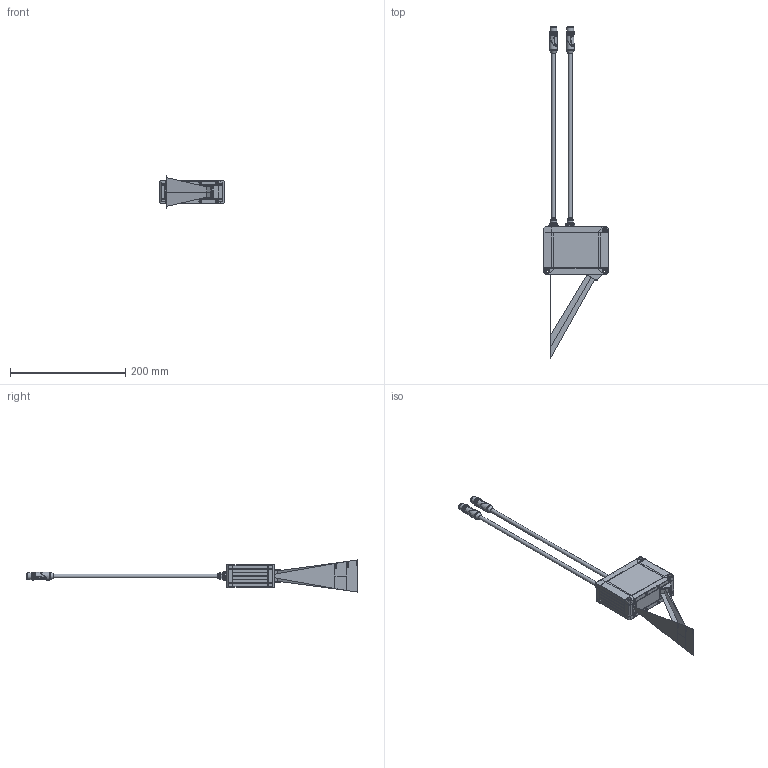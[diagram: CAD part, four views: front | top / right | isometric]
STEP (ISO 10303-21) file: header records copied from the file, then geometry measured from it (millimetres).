
FILE_DESCRIPTION (( 'STEP AP214' ), '1' );
FILE_NAME ('LLT30xx-50-PT.STEP', '2026-07-22T08:18:30', ( '' ), ( '' ), 'SwSTEP 2.0', 'SolidWorks 2024', '' );
FILE_SCHEMA (( 'AUTOMOTIVE_DESIGN' ));
Length unit declared in the file: millimetre
Products named in the file (1): LLT30xx-50-PT
Bounding box: 112 x 575.5 x 55.9 mm (x, y, z)
Volume: 394611.3 mm3; surface area: 83768.6 mm2
Topology: 3 solids, 10 shells, 3865 faces, 8678 edges, 4932 vertices
Faces by surface type: plane 2121, cone 944, cylinder 488, bspline 284, torus 28
Full cylindrical faces by diameter (mm): 0.6 x8, 0.7 x12, 2.4 x3, 3.8 x16, 4.2 x3, 4.4 x16, 6.8 x4, 8 x4, 8.35 x2, 8.4 x4, 9.2 x2, 9.4 x2, 9.5 x2, 10.5 x2, 10.7 x2, 11.2 x2, 12 x2, 13 x2, 13.5 x2, 15 x2
Entity records: 160013 total; most frequent: CARTESIAN_POINT 39303, ORIENTED_EDGE 16820, DIRECTION 14604, EDGE_CURVE 8410, AXIS2_PLACEMENT_3D 5484, VERTEX_POINT 4870, EDGE_LOOP 4188, FACE_OUTER_BOUND 3987
